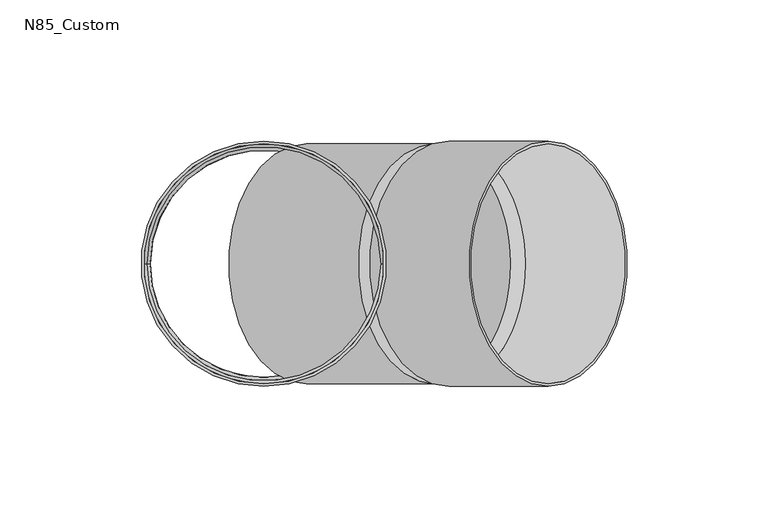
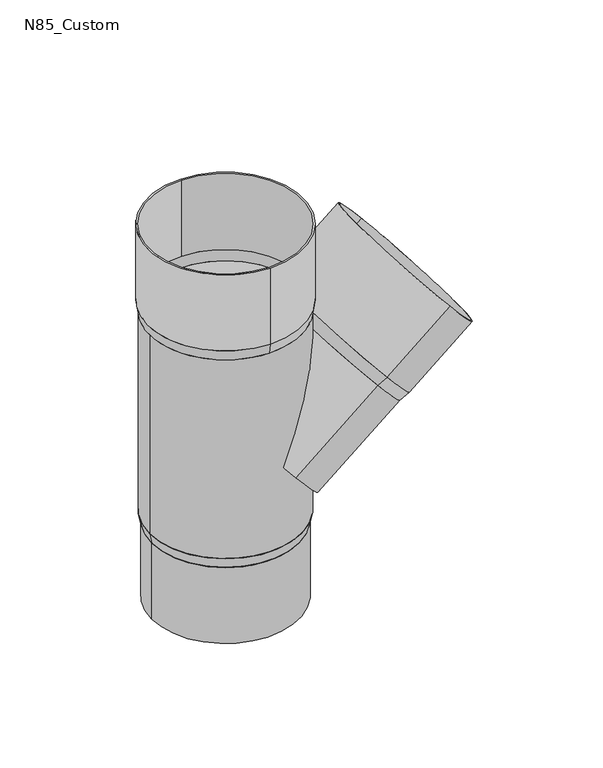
"""IFC4 building model written with IfcOpenShell, lengths in millimetres: proxy geometry, GROVIK_Downpipe_Branch : N85_Custom."""

import ifcopenshell
import ifcopenshell.guid

model = None  # the IFC model being written
_history = None  # IfcOwnerHistory: only IFC2X3 demands one
_inside = {}  # id of a spatial element -> (the spatial element, [elements in it])
_under = {}  # id of a project, library or spatial element -> (it, [spatial elements below it])
_declared = {}  # id of a project -> (the project, [libraries it declares])
_typed = {}  # id of a type object -> (the type object, [elements of that type])
_made_of = {}  # id of a material, layer set ... -> (it, [elements and type objects made of it])


def new_model(schema):
    """Start an empty IFC model of exactly this schema.

    Asked for "IFC4X3", IfcOpenShell would pick the latest addendum, in which some entities
    have other attributes; the version numbers below select the first issue.
    IFC2X3 requires an IfcOwnerHistory on every rooted entity: one is made here for all.
    """
    global model, _history
    if schema == "IFC4X3":
        model = ifcopenshell.file(schema_version=(4, 3, 0, 0))
    else:
        model = ifcopenshell.file(schema=schema)
    _inside.clear()
    _under.clear()
    _declared.clear()
    _typed.clear()
    _made_of.clear()
    _history = None
    if model.schema == "IFC2X3":
        org = make("IfcOrganization", Name="unknown")
        user = make(
            "IfcPersonAndOrganization",
            ThePerson=make("IfcPerson", FamilyName="unknown"),
            TheOrganization=org,
        )
        app = make(
            "IfcApplication",
            ApplicationDeveloper=org,
            Version="unknown",
            ApplicationFullName="unknown",
            ApplicationIdentifier="unknown",
        )
        _history = make(
            "IfcOwnerHistory",
            OwningUser=user,
            OwningApplication=app,
            ChangeAction="ADDED",
            CreationDate=0,
        )
    return model


def make(cls, **values):
    """One entity of the class cls with the attributes given. An attribute that is None is left unset."""
    return model.create_entity(
        cls, **{name: value for name, value in values.items() if value is not None}
    )


def rooted(cls, **values):
    """An entity with a GlobalId (a new one), such as an element, a storey or a relation."""
    return make(cls, GlobalId=ifcopenshell.guid.new(), OwnerHistory=_history, **values)


def si_unit(unit_type, name, prefix=None):
    """IfcSIUnit, for example si_unit("LENGTHUNIT", "METRE", prefix="MILLI")."""
    return make("IfcSIUnit", UnitType=unit_type, Prefix=prefix, Name=name)


def assignment(units):
    """IfcUnitAssignment: the units of a project."""
    return None if units is None else make("IfcUnitAssignment", Units=units)


def point(xyz):
    """IfcCartesianPoint."""
    return None if xyz is None else make("IfcCartesianPoint", Coordinates=xyz)


def direction(xyz):
    """IfcDirection."""
    return None if xyz is None else make("IfcDirection", DirectionRatios=xyz)


def frame(location, z_axis=None, x_axis=None):
    """IfcAxis2Placement3D, a coordinate frame: its origin and axes. An axis left out is left unset."""
    return make(
        "IfcAxis2Placement3D",
        Location=point(location),
        Axis=direction(z_axis),
        RefDirection=direction(x_axis),
    )


def frame_2d(location, x_axis=None):
    """IfcAxis2Placement2D, a coordinate frame in the plane: its origin and x axis."""
    return make(
        "IfcAxis2Placement2D", Location=point(location), RefDirection=direction(x_axis)
    )


def origin():
    """The frame at (0, 0, 0) with its axes left unset."""
    return frame((0.0, 0.0, 0.0))


def origin_2d():
    """The frame at (0, 0) in the plane with its x axis left unset."""
    return frame_2d((0.0, 0.0))


def place(relative_to, where):
    """IfcLocalPlacement: puts the frame where relative to a parent placement (None: the world)."""
    return make(
        "IfcLocalPlacement", PlacementRelTo=relative_to, RelativePlacement=where
    )


def context(
    kind, dimensions, precision=None, world=None, true_north=None, identifier=None
):
    """IfcGeometricRepresentationContext, for example the 3D "Model" context."""
    return make(
        "IfcGeometricRepresentationContext",
        ContextIdentifier=identifier,
        ContextType=kind,
        CoordinateSpaceDimension=dimensions,
        Precision=precision,
        WorldCoordinateSystem=world,
        TrueNorth=true_north,
    )


def project(units=None, contexts=None):
    """IfcProject with its units and contexts."""
    return rooted(
        "IfcProject",
        Name="project",
        RepresentationContexts=contexts,
        UnitsInContext=assignment(units),
    )


def spatial(cls, under=None, at=None, **own):
    """A site, building, storey or space (cls), placed at a placement, below another one or the project."""
    s = rooted(cls, ObjectPlacement=at, **own)
    if under is not None:
        _under.setdefault(under.id(), (under, []))[1].append(s)
    return s


def polyline(points):
    """IfcPolyline through the points."""
    return make("IfcPolyline", Points=[point(p) for p in points])


def circle_curve(where, radius):
    """IfcCircle in the frame where."""
    return make("IfcCircle", Position=where, Radius=radius)


def trimmed(basis, trim1, trim2, sense, master):
    """IfcTrimmedCurve: the piece of a basis curve between two trims."""
    return make(
        "IfcTrimmedCurve",
        BasisCurve=basis,
        Trim1=trim1,
        Trim2=trim2,
        SenseAgreement=sense,
        MasterRepresentation=master,
    )


def segment(curve, same_sense, transition):
    """IfcCompositeCurveSegment."""
    return make(
        "IfcCompositeCurveSegment",
        Transition=transition,
        SameSense=same_sense,
        ParentCurve=curve,
    )


def composite_curve(segments, self_intersect=None):
    """IfcCompositeCurve: segments joined end to end."""
    return make("IfcCompositeCurve", Segments=segments, SelfIntersect=self_intersect)


def outline(outer, holes=None, kind="AREA"):
    """IfcArbitraryClosedProfileDef: a profile drawn as a closed curve; with holes, ...WithVoids."""
    if holes is None:
        return make("IfcArbitraryClosedProfileDef", ProfileType=kind, OuterCurve=outer)
    return make(
        "IfcArbitraryProfileDefWithVoids",
        ProfileType=kind,
        OuterCurve=outer,
        InnerCurves=holes,
    )


def extrude(swept, where, along, depth):
    """IfcExtrudedAreaSolid: the profile swept, set in the frame where, extruded along a direction by depth."""
    return make(
        "IfcExtrudedAreaSolid",
        SweptArea=swept,
        Position=where,
        ExtrudedDirection=direction(along),
        Depth=depth,
    )


def shape(context_of_items, identifier, shape_type, items):
    """IfcShapeRepresentation: the items that make up one representation, for example the "Body"."""
    return make(
        "IfcShapeRepresentation",
        ContextOfItems=context_of_items,
        RepresentationIdentifier=identifier,
        RepresentationType=shape_type,
        Items=items,
    )


def source(mapping_origin, context_of_items, identifier, shape_type, items):
    """IfcRepresentationMap: a shape defined once, which mapped items show again and again."""
    return make(
        "IfcRepresentationMap",
        MappingOrigin=mapping_origin,
        MappedRepresentation=shape(context_of_items, identifier, shape_type, items),
    )


def transform(
    local_origin,
    x_axis=None,
    y_axis=None,
    z_axis=None,
    scale=None,
    scale2=None,
    scale3=None,
    uniform=True,
):
    """IfcCartesianTransformationOperator3D, or its non-uniform kind. x_axis, y_axis, z_axis: its Axis1, 2, 3."""
    if uniform:
        return make(
            "IfcCartesianTransformationOperator3D",
            Axis1=direction(x_axis),
            Axis2=direction(y_axis),
            LocalOrigin=point(local_origin),
            Scale=scale,
            Axis3=direction(z_axis),
        )
    return make(
        "IfcCartesianTransformationOperator3DnonUniform",
        Axis1=direction(x_axis),
        Axis2=direction(y_axis),
        LocalOrigin=point(local_origin),
        Scale=scale,
        Axis3=direction(z_axis),
        Scale2=scale2,
        Scale3=scale3,
    )


def mapped(mapping_source, mapping_target):
    """IfcMappedItem: shows the shape of a source again, moved by a transform."""
    return make(
        "IfcMappedItem", MappingSource=mapping_source, MappingTarget=mapping_target
    )


def made_of(thing, what):
    """Note that an element or type object is made of a material, layer set ...; save() writes the relation."""
    if what is not None:
        _made_of.setdefault(what.id(), (what, []))[1].append(thing)
    return thing


def element(
    cls,
    number,
    at=None,
    inside=None,
    cuts=None,
    type_object=None,
    material=None,
    context=None,
    identifier="Body",
    shape_type=None,
    held_by="IfcProductDefinitionShape",
    body=None,
    shapes=None,
    **own,
):
    """One element of the class cls, such as IfcWall. Its Tag is "e" and its number.

    at: its placement. inside: the storey or other place that contains it. cuts: it is an
    opening in that element (IfcRelVoidsElement). A single representation is given by context,
    identifier, shape_type and body (its items); several are given by shapes. held_by: the class
    of the entity that holds the representations. save() writes the other relations.
    """
    e = rooted(cls, Tag="e%d" % number, ObjectPlacement=at, **own)
    if body is not None:
        shapes = [shape(context, identifier, shape_type, body)]
    if shapes is not None:
        e.Representation = make(held_by, Representations=shapes)
    if inside is not None:
        _inside.setdefault(inside.id(), (inside, []))[1].append(e)
    if cuts is not None:
        rooted(
            "IfcRelVoidsElement", RelatingBuildingElement=cuts, RelatedOpeningElement=e
        )
    if type_object is not None:
        _typed.setdefault(type_object.id(), (type_object, []))[1].append(e)
    return made_of(e, material)


def aggregate(whole, parts):
    """IfcRelAggregates: a whole, such as a stair, and the parts it consists of."""
    return rooted("IfcRelAggregates", RelatingObject=whole, RelatedObjects=parts)


def save(model, path):
    """Write the relations noted so far, then the file.

    IfcRelAggregates (storeys below a building ...), IfcRelContainedInSpatialStructure (elements
    in a storey), IfcRelDefinesByType, IfcRelAssociatesMaterial and IfcRelDeclares: one each for
    every whole, place, type object, material and project.
    """
    for whole, parts in _under.values():
        aggregate(whole, parts)
    for where, things in _inside.values():
        rooted(
            "IfcRelContainedInSpatialStructure",
            RelatedElements=things,
            RelatingStructure=where,
        )
    for kind, things in _typed.values():
        rooted("IfcRelDefinesByType", RelatedObjects=things, RelatingType=kind)
    for what, things in _made_of.values():
        rooted("IfcRelAssociatesMaterial", RelatedObjects=things, RelatingMaterial=what)
    for by, libraries in _declared.values():
        rooted("IfcRelDeclares", RelatingContext=by, RelatedDefinitions=libraries)
    model.write(path)


def plane_surface(at):
    """IfcPlane: the flat surface through the origin of the frame at, square to its z axis."""
    return make("IfcPlane", Position=at)


def revolved_surface(curve, axis_point, axis_direction):
    """IfcSurfaceOfRevolution: the curve turned about the line through axis_point along axis_direction."""
    return make(
        "IfcSurfaceOfRevolution",
        SweptCurve=make("IfcArbitraryOpenProfileDef", ProfileType="CURVE", Curve=curve),
        AxisPosition=make("IfcAxis1Placement", Location=point(axis_point), Axis=direction(axis_direction)),
    )


def advanced_brep(points, edges, surfaces, faces):
    """IfcAdvancedBrep: a solid bounded by faces that lie on surfaces and meet in shared edges.

    An edge is (start, end): straight between two places in points (the first is 0);
    or (start, end, curve); or (start, end, curve, False) where it runs against its curve.
    A face is (place in surfaces, loops), or (place, loops, False) where it looks against
    its surface's normal. A loop lists edges by number (the first is 1), with a minus sign
    where the edge is run from its end to its start. The first loop is the outer one.
    """
    corners = [point(p) for p in points]
    vertices = [make("IfcVertexPoint", VertexGeometry=c) for c in corners]
    made = []
    for start, end, *more in edges:
        made.append(
            make(
                "IfcEdgeCurve",
                EdgeStart=vertices[start],
                EdgeEnd=vertices[end],
                EdgeGeometry=more[0] if more else make("IfcPolyline", Points=[corners[start], corners[end]]),
                SameSense=more[1] if len(more) > 1 else True,
            )
        )
    hull = []
    for where, loops, *sense in faces:
        bounds = []
        for j, loop in enumerate(loops):
            ring = [make("IfcOrientedEdge", EdgeElement=made[abs(k) - 1], Orientation=k > 0) for k in loop]
            bounds.append(
                make(
                    "IfcFaceOuterBound" if j == 0 else "IfcFaceBound",
                    Bound=make("IfcEdgeLoop", EdgeList=ring),
                    Orientation=True,
                )
            )
        hull.append(make("IfcAdvancedFace", Bounds=bounds, FaceSurface=surfaces[where], SameSense=sense[0] if sense else True))
    return make("IfcAdvancedBrep", Outer=make("IfcClosedShell", CfsFaces=hull))


def n85_custom_c42e09e2(model_context):
    return source(origin(), model_context, "Body", "SolidModel", [
        extrude(outline(composite_curve([segment(trimmed(circle_curve(origin_2d(), 43.5), [point((0.0, 43.5))], [point((0.0, -43.5))], False, "CARTESIAN"), True, "CONTINUOUS"), segment(trimmed(circle_curve(origin_2d(), 43.5), [point((0.0, -43.5))], [point((0.0, 43.5))], False, "CARTESIAN"), True, "CONTINUOUS")], self_intersect=False), holes=[composite_curve([segment(trimmed(circle_curve(origin_2d(), 42.5), [point((0.0, 42.5))], [point((0.0, -42.5))], True, "CARTESIAN"), True, "CONTINUOUS"), segment(trimmed(circle_curve(origin_2d(), 42.5), [point((0.0, -42.5))], [point((0.0, 42.5))], True, "CARTESIAN"), True, "CONTINUOUS")], self_intersect=False)]), frame((65.5589332, 0.0, 22.4239822), z_axis=(0.7660444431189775, 0.0, 0.6427876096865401), x_axis=(0.6427876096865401, 0.0, -0.7660444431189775)), (0.0, 0.0, 1.0), 46.0),
        advanced_brep(
        [(60.9626666, -42.5, 18.5672566), (60.9626666, 42.5, 18.5672566), (60.9626666, 41.4, 18.5672566), (60.9626666, -41.4, 18.5672566), (65.5589332, -43.5, 22.4239822), (65.5589332, 43.5, 22.4239822), (65.5589332, -42.5, 22.4239822), (65.5589332, 42.5, 22.4239822)],
        [
            (0, 1, circle_curve(frame((60.9626666, 0.0, 18.5672566), z_axis=(-0.7660444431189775, 0.0, -0.6427876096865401), x_axis=(0.0, -1.0, 0.0)), 42.5)),
            (1, 0, circle_curve(frame((60.9626666, 0.0, 18.5672566), z_axis=(-0.7660444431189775, 0.0, -0.6427876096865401), x_axis=(0.0, 1.0, 0.0)), 42.5)),
            (2, 3, circle_curve(frame((60.9626666, 0.0, 18.5672566), z_axis=(0.7660444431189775, 0.0, 0.6427876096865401), x_axis=(0.0, -1.0, 0.0)), 41.4)),
            (3, 2, circle_curve(frame((60.9626666, 0.0, 18.5672566), z_axis=(0.7660444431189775, 0.0, 0.6427876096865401), x_axis=(0.0, 1.0, 0.0)), 41.4)),
            (4, 5, circle_curve(frame((65.5589332, 0.0, 22.4239822), z_axis=(0.7660444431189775, 0.0, 0.6427876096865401), x_axis=(0.0, 1.0, 0.0)), 43.5)),
            (5, 4, circle_curve(frame((65.5589332, 0.0, 22.4239822), z_axis=(0.7660444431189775, 0.0, 0.6427876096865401), x_axis=(0.0, -1.0, 0.0)), 43.5)),
            (6, 7, circle_curve(frame((65.5589332, 0.0, 22.4239822), z_axis=(-0.7660444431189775, 0.0, -0.6427876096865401), x_axis=(0.0, -1.0, 0.0)), 42.5)),
            (7, 6, circle_curve(frame((65.5589332, 0.0, 22.4239822), z_axis=(-0.7660444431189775, 0.0, -0.6427876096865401), x_axis=(0.0, 1.0, 0.0)), 42.5)),
            (0, 4),
            (5, 1),
            (6, 3),
            (2, 7),
        ],
        [
            plane_surface(frame((60.9626666, 0.0, 18.5672566), z_axis=(-0.7660444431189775, 0.0, -0.6427876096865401), x_axis=(-0.6427876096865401, 0.0, 0.7660444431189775))),
            plane_surface(frame((65.5589332, 0.0, 22.4239822), z_axis=(0.7660444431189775, 0.0, 0.6427876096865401), x_axis=(-0.6427876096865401, 0.0, 0.7660444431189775))),
            revolved_surface(polyline([(60.962666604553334, -42.50000001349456, 18.567256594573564), (65.55893320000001, -43.5, 22.42398220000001)]), (-134.3786664, 0.0, -145.3435839), (0.7660444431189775, 0.0, 0.6427876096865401)),
            revolved_surface(polyline([(60.962666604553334, 42.50000001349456, 18.567256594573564), (65.55893320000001, 43.5, 22.42398220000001)]), (-134.3786664, 0.0, -145.3435839), (0.7660444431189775, 0.0, 0.6427876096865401)),
            revolved_surface(polyline([(65.55893319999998, -42.5, 22.423982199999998), (60.96266660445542, -41.400000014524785, 18.567256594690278)]), (-112.0240967, 0.0, -126.5858727), (0.7660444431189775, 0.0, 0.6427876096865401)),
        ],
        [
            (0, [[1, 2], [3, 4]]),
            (1, [[5, 6], [7, 8]]),
            (2, [[-1, 9, -6, 10]]),
            (3, [[-2, -10, -5, -9]]),
            (4, [[11, -3, 12, -7]]),
            (4, [[-11, -8, -12, -4]]),
        ],
    ),
        extrude(outline(composite_curve([segment(trimmed(circle_curve(origin_2d(), 42.5), [point((0.0, 42.5))], [point((0.0, -42.5))], False, "CARTESIAN"), True, "CONTINUOUS"), segment(trimmed(circle_curve(origin_2d(), 42.5), [point((0.0, -42.5))], [point((0.0, 42.5))], False, "CARTESIAN"), True, "CONTINUOUS")], self_intersect=False), holes=[composite_curve([segment(trimmed(circle_curve(origin_2d(), 41.4), [point((0.0, 41.4))], [point((0.0, -41.4))], True, "CARTESIAN"), True, "CONTINUOUS"), segment(trimmed(circle_curve(origin_2d(), 41.4), [point((0.0, -41.4))], [point((0.0, 41.4))], True, "CARTESIAN"), True, "CONTINUOUS")], self_intersect=False)]), frame((15.0, 0.0, -20.0), z_axis=(0.7660444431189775, 0.0, 0.6427876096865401), x_axis=(0.6427876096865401, 0.0, -0.7660444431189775)), (0.0, 0.0, 1.0), 60.0),
        extrude(outline(composite_curve([segment(trimmed(circle_curve(origin_2d(), 43.5), [point((0.0, 43.5))], [point((0.0, -43.5))], False, "CARTESIAN"), True, "CONTINUOUS"), segment(trimmed(circle_curve(origin_2d(), 43.5), [point((0.0, -43.5))], [point((0.0, 43.5))], False, "CARTESIAN"), True, "CONTINUOUS")], self_intersect=False), holes=[composite_curve([segment(trimmed(circle_curve(origin_2d(), 42.5), [point((0.0, 42.5))], [point((0.0, -42.5))], True, "CARTESIAN"), True, "CONTINUOUS"), segment(trimmed(circle_curve(origin_2d(), 42.5), [point((0.0, -42.5))], [point((0.0, 42.5))], True, "CARTESIAN"), True, "CONTINUOUS")], self_intersect=False)]), frame((0.0, 0.0, 65.0), z_axis=(0.0, 0.0, 1.0), x_axis=(1.0, 0.0, 0.0)), (0.0, 0.0, 1.0), 45.0),
        extrude(outline(composite_curve([segment(trimmed(circle_curve(origin_2d(), 41.25), [point((41.25, 0.0))], [point((-41.25, 0.0))], False, "CARTESIAN"), True, "CONTINUOUS"), segment(trimmed(circle_curve(origin_2d(), 41.25), [point((-41.25, 0.0))], [point((41.25, 0.0))], False, "CARTESIAN"), True, "CONTINUOUS")], self_intersect=False), holes=[composite_curve([segment(trimmed(circle_curve(origin_2d(), 40.25), [point((40.25, 0.0))], [point((-40.25, 0.0))], True, "CARTESIAN"), True, "CONTINUOUS"), segment(trimmed(circle_curve(origin_2d(), 40.25), [point((-40.25, 0.0))], [point((40.25, 0.0))], True, "CARTESIAN"), True, "CONTINUOUS")], self_intersect=False)]), frame((0.0, 0.0, -110.0), z_axis=(0.0, 0.0, 1.0), x_axis=(1.0, 0.0, 0.0)), (0.0, 0.0, 1.0), 45.0),
        advanced_brep(
        [(42.5, 0.0, -59.0), (-42.5, 0.0, -59.0), (-41.5, 0.0, -59.0), (41.5, 0.0, -59.0), (41.25, 0.0, -65.0), (-41.25, 0.0, -65.0), (40.25, 0.0, -65.0), (-40.25, 0.0, -65.0)],
        [
            (0, 1, circle_curve(frame((0.0, 0.0, -59.0), z_axis=(0.0, 0.0, 1.0), x_axis=(1.0, 0.0, 0.0)), 42.5)),
            (1, 0, circle_curve(frame((0.0, 0.0, -59.0), z_axis=(0.0, 0.0, 1.0), x_axis=(-1.0, 0.0, 0.0)), 42.5)),
            (2, 3, circle_curve(frame((0.0, 0.0, -59.0), z_axis=(0.0, 0.0, -1.0), x_axis=(1.0, 0.0, 0.0)), 41.5)),
            (3, 2, circle_curve(frame((0.0, 0.0, -59.0), z_axis=(0.0, 0.0, -1.0), x_axis=(-1.0, 0.0, 0.0)), 41.5)),
            (4, 5, circle_curve(frame((0.0, 0.0, -65.0), z_axis=(0.0, 0.0, -1.0), x_axis=(-1.0, 0.0, 0.0)), 41.25)),
            (5, 4, circle_curve(frame((0.0, 0.0, -65.0), z_axis=(0.0, 0.0, -1.0), x_axis=(1.0, 0.0, 0.0)), 41.25)),
            (6, 7, circle_curve(frame((0.0, 0.0, -65.0), z_axis=(0.0, 0.0, 1.0), x_axis=(1.0, 0.0, 0.0)), 40.25)),
            (7, 6, circle_curve(frame((0.0, 0.0, -65.0), z_axis=(0.0, 0.0, 1.0), x_axis=(-1.0, 0.0, 0.0)), 40.25)),
            (0, 4),
            (5, 1),
            (6, 3),
            (2, 7),
        ],
        [
            plane_surface(frame((0.0, 0.0, -59.0), z_axis=(0.0, 0.0, 1.0), x_axis=(0.0, 1.0, 0.0))),
            plane_surface(frame((0.0, 0.0, -65.0), z_axis=(0.0, 0.0, -1.0), x_axis=(0.0, 1.0, 0.0))),
            revolved_surface(polyline([(-41.25, 0.0, -65.0), (-42.5, 0.0, -59.0)]), (0.0, 0.0, -263.0), (0.0, 0.0, 1.0)),
            revolved_surface(polyline([(41.25, 0.0, -65.0), (42.5, 0.0, -59.0)]), (0.0, 0.0, -263.0), (0.0, 0.0, 1.0)),
            revolved_surface(polyline([(41.5, 0.0, -59.0), (40.25, 0.0, -65.0)]), (0.0, 0.0, -258.2), (0.0, 0.0, 1.0)),
        ],
        [
            (0, [[1, 2], [3, 4]]),
            (1, [[5, 6], [7, 8]]),
            (2, [[-1, 9, -6, 10]]),
            (3, [[-2, -10, -5, -9]]),
            (4, [[11, -3, 12, -7]]),
            (4, [[-11, -8, -12, -4]]),
        ],
    ),
        advanced_brep(
        [(0.0, 43.5, 65.0), (0.0, -43.5, 65.0), (-42.5, 0.0, 65.0), (42.5, 0.0, 65.0), (0.0, 42.5, 59.0), (0.0, -42.5, 59.0), (41.5, 0.0, 59.0), (-41.5, 0.0, 59.0)],
        [
            (0, 1, circle_curve(frame((0.0, 0.0, 65.0), z_axis=(0.0, 0.0, 1.0), x_axis=(0.0, 1.0, 0.0)), 43.5)),
            (1, 0, circle_curve(frame((0.0, 0.0, 65.0), z_axis=(0.0, 0.0, 1.0), x_axis=(0.0, -1.0, 0.0)), 43.5)),
            (2, 3, circle_curve(frame((0.0, 0.0, 65.0), z_axis=(0.0, 0.0, -1.0), x_axis=(-1.0, 0.0, 0.0)), 42.5)),
            (3, 2, circle_curve(frame((0.0, 0.0, 65.0), z_axis=(0.0, 0.0, -1.0), x_axis=(1.0, 0.0, 0.0)), 42.5)),
            (4, 5, circle_curve(frame((0.0, 0.0, 59.0), z_axis=(0.0, 0.0, -1.0), x_axis=(0.0, -1.0, 0.0)), 42.5)),
            (5, 4, circle_curve(frame((0.0, 0.0, 59.0), z_axis=(0.0, 0.0, -1.0), x_axis=(0.0, 1.0, 0.0)), 42.5)),
            (6, 7, circle_curve(frame((0.0, 0.0, 59.0), z_axis=(0.0, 0.0, 1.0), x_axis=(-1.0, 0.0, 0.0)), 41.5)),
            (7, 6, circle_curve(frame((0.0, 0.0, 59.0), z_axis=(0.0, 0.0, 1.0), x_axis=(1.0, 0.0, 0.0)), 41.5)),
            (0, 4),
            (5, 1),
            (2, 7),
            (6, 3),
        ],
        [
            plane_surface(frame((0.0, 0.0, 65.0), z_axis=(0.0, 0.0, 1.0), x_axis=(-1.0, 0.0, 0.0))),
            plane_surface(frame((0.0, 0.0, 59.0), z_axis=(0.0, 0.0, -1.0), x_axis=(-1.0, 0.0, 0.0))),
            revolved_surface(polyline([(0.0, -42.5, 59.0), (0.0, -43.5, 65.0)]), (0.0, 0.0, -196.0), (0.0, 0.0, 1.0)),
            revolved_surface(polyline([(0.0, 42.5, 59.0), (0.0, 43.5, 65.0)]), (0.0, 0.0, -196.0), (0.0, 0.0, 1.0)),
            revolved_surface(polyline([(-42.5, 0.0, 65.0), (-41.5, 0.0, 59.0)]), (0.0, 0.0, -190.0), (0.0, 0.0, 1.0)),
        ],
        [
            (0, [[1, 2], [3, 4]]),
            (1, [[5, 6], [7, 8]]),
            (2, [[-1, 9, -6, 10]]),
            (3, [[-2, -10, -5, -9]]),
            (4, [[11, -7, 12, -3]]),
            (4, [[-11, -4, -12, -8]]),
        ],
    ),
        extrude(outline(composite_curve([segment(trimmed(circle_curve(origin_2d(), 42.5), [point((-42.5, 0.0))], [point((42.5, 0.0))], False, "CARTESIAN"), True, "CONTINUOUS"), segment(trimmed(circle_curve(origin_2d(), 42.5), [point((42.5, 0.0))], [point((-42.5, 0.0))], False, "CARTESIAN"), True, "CONTINUOUS")], self_intersect=False), holes=[composite_curve([segment(trimmed(circle_curve(origin_2d(), 41.5), [point((-41.5, 0.0))], [point((41.5, 0.0))], True, "CARTESIAN"), True, "CONTINUOUS"), segment(trimmed(circle_curve(origin_2d(), 41.5), [point((41.5, 0.0))], [point((-41.5, 0.0))], True, "CARTESIAN"), True, "CONTINUOUS")], self_intersect=False)]), frame((0.0, 0.0, -59.0), z_axis=(0.0, 0.0, 1.0), x_axis=(1.0, 0.0, 0.0)), (0.0, 0.0, 1.0), 118.0),
    ])


if __name__ == "__main__":
    model = new_model("IFC4")
    model_context = context("Model", 3, world=origin())
    ifc_project = project(units=[si_unit("LENGTHUNIT", "METRE", prefix="MILLI")], contexts=[model_context])
    site = spatial("IfcSite", under=ifc_project)
    building = spatial("IfcBuilding", under=site)
    placement = place(None, origin())
    n85_custom_shape = n85_custom_c42e09e2(model_context)
    element("IfcBuildingElementProxy", 1, Name="GROVIK_Downpipe_Branch : N85_Custom", ObjectType="GROVIK_Downpipe_Branch : N85_Custom", at=placement, inside=building, context=model_context, shape_type="MappedRepresentation", body=[
        mapped(n85_custom_shape, transform((0.0, 0.0, 0.0), x_axis=(1.0, 0.0, 0.0), y_axis=(0.0, 1.0, 0.0), z_axis=(0.0, 0.0, 1.0))),
    ])
    save(model, "model.ifc")
